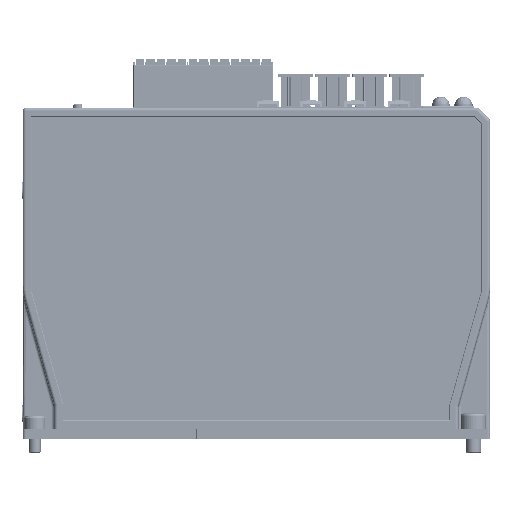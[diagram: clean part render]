
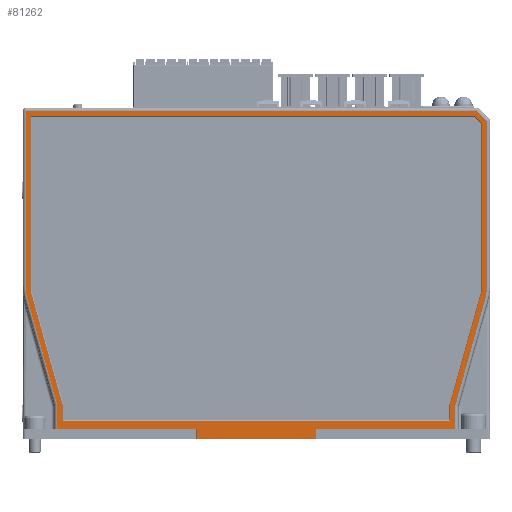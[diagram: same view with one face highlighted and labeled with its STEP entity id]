
A CAD part, left-side view. The second image highlights one B-rep face of the part: STEP entity #81262.
In plain terms, the highlighted planar face has unit normal (-1, 0, 0).
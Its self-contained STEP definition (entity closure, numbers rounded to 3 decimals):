
#32839=DIRECTION('',(0.,1.,0.));
#32840=VECTOR('',#32839,46.2);
#32841=CARTESIAN_POINT('',(-22.5,-66.,-106.4));
#32842=LINE('',#32841,#32840);
#32843=DIRECTION('',(0.,0.,1.));
#32844=VECTOR('',#32843,3.5);
#32845=CARTESIAN_POINT('',(-22.5,-19.8,-109.9));
#32846=LINE('',#32845,#32844);
#32847=DIRECTION('',(0.,-1.,0.));
#32848=VECTOR('',#32847,39.6);
#32849=CARTESIAN_POINT('',(-22.5,19.8,-109.9));
#32850=LINE('',#32849,#32848);
#32851=DIRECTION('',(0.,0.,-1.));
#32852=VECTOR('',#32851,3.5);
#32853=CARTESIAN_POINT('',(-22.5,19.8,-106.4));
#32854=LINE('',#32853,#32852);
#32855=DIRECTION('',(0.,1.,0.));
#32856=VECTOR('',#32855,46.2);
#32857=CARTESIAN_POINT('',(-22.5,19.8,-106.4));
#32858=LINE('',#32857,#32856);
#32859=DIRECTION('',(0.,0.,-1.));
#32860=VECTOR('',#32859,7.263);
#32861=CARTESIAN_POINT('',(-22.5,66.,-99.137));
#32862=LINE('',#32861,#32860);
#32863=CARTESIAN_POINT('',(-22.5,68.,-99.137));
#32864=DIRECTION('',(1.,0.,0.));
#32865=DIRECTION('',(0.,-0.963,0.27));
#32866=AXIS2_PLACEMENT_3D('',#32863,#32864,#32865);
#32868=DIRECTION('',(0.,-0.27,-0.963));
#32869=VECTOR('',#32868,36.264);
#32870=CARTESIAN_POINT('',(-22.5,75.852,-63.677));
#32871=LINE('',#32870,#32869);
#32872=CARTESIAN_POINT('',(-22.5,59.,-58.959));
#32873=DIRECTION('',(-1.,0.,0.));
#32874=DIRECTION('',(0.,1.,0.));
#32875=AXIS2_PLACEMENT_3D('',#32872,#32873,#32874);
#32877=DIRECTION('',(0.,0.,-1.));
#32878=VECTOR('',#32877,57.959);
#32879=CARTESIAN_POINT('',(-22.5,76.5,-1.));
#32880=LINE('',#32879,#32878);
#32881=DIRECTION('',(0.,-1.,0.));
#32882=VECTOR('',#32881,149.586);
#32883=CARTESIAN_POINT('',(-22.5,76.5,-1.));
#32884=LINE('',#32883,#32882);
#32885=DIRECTION('',(0.,0.707,0.707));
#32886=VECTOR('',#32885,4.828);
#32887=CARTESIAN_POINT('',(-22.5,-76.5,-4.414));
#32888=LINE('',#32887,#32886);
#32889=DIRECTION('',(0.,0.,-1.));
#32890=VECTOR('',#32889,54.545);
#32891=CARTESIAN_POINT('',(-22.5,-76.5,-4.414));
#32892=LINE('',#32891,#32890);
#32893=CARTESIAN_POINT('',(-22.5,-59.,-58.959));
#32894=DIRECTION('',(-1.,0.,0.));
#32895=DIRECTION('',(0.,-0.963,-0.27));
#32896=AXIS2_PLACEMENT_3D('',#32893,#32894,#32895);
#32898=DIRECTION('',(0.,-0.27,0.963));
#32899=VECTOR('',#32898,36.264);
#32900=CARTESIAN_POINT('',(-22.5,-66.074,-98.598));
#32901=LINE('',#32900,#32899);
#32902=CARTESIAN_POINT('',(-22.5,-68.,-99.137));
#32903=DIRECTION('',(1.,0.,0.));
#32904=DIRECTION('',(0.,1.,0.));
#32905=AXIS2_PLACEMENT_3D('',#32902,#32903,#32904);
#32907=DIRECTION('',(0.,0.,1.));
#32908=VECTOR('',#32907,7.263);
#32909=CARTESIAN_POINT('',(-22.5,-66.,-106.4));
#32910=LINE('',#32909,#32908);
#32911=DIRECTION('',(0.,0.27,0.963));
#32912=VECTOR('',#32911,38.942);
#32913=CARTESIAN_POINT('',(-22.5,64.25,-98.622));
#32914=LINE('',#32913,#32912);
#32915=DIRECTION('',(0.,0.,1.));
#32916=VECTOR('',#32915,5.128);
#32917=CARTESIAN_POINT('',(-22.5,64.25,-103.75));
#32918=LINE('',#32917,#32916);
#32919=DIRECTION('',(0.,1.,0.));
#32920=VECTOR('',#32919,128.5);
#32921=CARTESIAN_POINT('',(-22.5,-64.25,-103.75));
#32922=LINE('',#32921,#32920);
#32923=DIRECTION('',(0.,0.,-1.));
#32924=VECTOR('',#32923,5.128);
#32925=CARTESIAN_POINT('',(-22.5,-64.25,-98.622));
#32926=LINE('',#32925,#32924);
#32927=DIRECTION('',(0.,0.27,-0.963));
#32928=VECTOR('',#32927,38.942);
#32929=CARTESIAN_POINT('',(-22.5,-74.75,-61.122));
#32930=LINE('',#32929,#32928);
#32931=DIRECTION('',(0.,0.,-1.));
#32932=VECTOR('',#32931,55.983);
#32933=CARTESIAN_POINT('',(-22.5,-74.75,-5.139));
#32934=LINE('',#32933,#32932);
#32935=DIRECTION('',(0.,-0.707,-0.707));
#32936=VECTOR('',#32935,3.379);
#32937=CARTESIAN_POINT('',(-22.5,-72.361,-2.75));
#32938=LINE('',#32937,#32936);
#32939=DIRECTION('',(0.,-1.,0.));
#32940=VECTOR('',#32939,147.111);
#32941=CARTESIAN_POINT('',(-22.5,74.75,-2.75));
#32942=LINE('',#32941,#32940);
#32943=DIRECTION('',(0.,0.,1.));
#32944=VECTOR('',#32943,58.372);
#32945=CARTESIAN_POINT('',(-22.5,74.75,-61.122));
#32946=LINE('',#32945,#32944);
#38874=CARTESIAN_POINT('',(-22.5,-66.074,-98.598));
#38875=CARTESIAN_POINT('',(-22.5,-75.852,-63.677));
#38876=VERTEX_POINT('',#38874);
#38877=VERTEX_POINT('',#38875);
#38880=CARTESIAN_POINT('',(-22.5,-76.5,-4.414));
#38881=CARTESIAN_POINT('',(-22.5,-76.5,-58.959));
#38882=VERTEX_POINT('',#38880);
#38883=VERTEX_POINT('',#38881);
#38888=CARTESIAN_POINT('',(-22.5,76.5,-1.));
#38889=CARTESIAN_POINT('',(-22.5,-73.086,-1.));
#38890=VERTEX_POINT('',#38888);
#38891=VERTEX_POINT('',#38889);
#38900=CARTESIAN_POINT('',(-22.5,76.5,-58.959));
#38901=VERTEX_POINT('',#38900);
#38902=CARTESIAN_POINT('',(-22.5,-66.,-99.137));
#38903=VERTEX_POINT('',#38902);
#40325=CARTESIAN_POINT('',(-22.5,-66.,-106.4));
#40326=VERTEX_POINT('',#40325);
#40327=CARTESIAN_POINT('',(-22.5,-19.8,-106.4));
#40328=VERTEX_POINT('',#40327);
#40342=CARTESIAN_POINT('',(-22.5,19.8,-106.4));
#40343=CARTESIAN_POINT('',(-22.5,66.,-106.4));
#40344=VERTEX_POINT('',#40342);
#40345=VERTEX_POINT('',#40343);
#40350=CARTESIAN_POINT('',(-22.5,19.8,-109.9));
#40351=VERTEX_POINT('',#40350);
#40356=CARTESIAN_POINT('',(-22.5,-19.8,-109.9));
#40357=VERTEX_POINT('',#40356);
#41532=CARTESIAN_POINT('',(-22.5,75.852,-63.677));
#41533=CARTESIAN_POINT('',(-22.5,66.074,-98.598));
#41534=VERTEX_POINT('',#41532);
#41535=VERTEX_POINT('',#41533);
#41552=CARTESIAN_POINT('',(-22.5,66.,-99.137));
#41553=VERTEX_POINT('',#41552);
#44384=CARTESIAN_POINT('',(-22.5,64.25,-98.622));
#44385=CARTESIAN_POINT('',(-22.5,74.75,-61.122));
#44386=VERTEX_POINT('',#44384);
#44387=VERTEX_POINT('',#44385);
#44394=CARTESIAN_POINT('',(-22.5,64.25,-103.75));
#44395=VERTEX_POINT('',#44394);
#44398=CARTESIAN_POINT('',(-22.5,-64.25,-103.75));
#44399=VERTEX_POINT('',#44398);
#44400=CARTESIAN_POINT('',(-22.5,-64.25,-98.622));
#44401=VERTEX_POINT('',#44400);
#44404=CARTESIAN_POINT('',(-22.5,-74.75,-61.122));
#44405=VERTEX_POINT('',#44404);
#44408=CARTESIAN_POINT('',(-22.5,-74.75,-5.139));
#44409=VERTEX_POINT('',#44408);
#44412=CARTESIAN_POINT('',(-22.5,-72.361,-2.75));
#44413=VERTEX_POINT('',#44412);
#44416=CARTESIAN_POINT('',(-22.5,74.75,-2.75));
#44417=VERTEX_POINT('',#44416);
#81202=CARTESIAN_POINT('',(-22.5,77.5,0.));
#81203=DIRECTION('',(-1.,0.,0.));
#81204=DIRECTION('',(0.,-1.,0.));
#81205=AXIS2_PLACEMENT_3D('',#81202,#81203,#81204);
#81206=PLANE('',#81205);
#81207=ORIENTED_EDGE('',*,*,#81186,.T.);
#81209=ORIENTED_EDGE('',*,*,#81208,.F.);
#81211=ORIENTED_EDGE('',*,*,#81210,.F.);
#81213=ORIENTED_EDGE('',*,*,#81212,.F.);
#81215=ORIENTED_EDGE('',*,*,#81214,.T.);
#81217=ORIENTED_EDGE('',*,*,#81216,.F.);
#81219=ORIENTED_EDGE('',*,*,#81218,.F.);
#81221=ORIENTED_EDGE('',*,*,#81220,.F.);
#81223=ORIENTED_EDGE('',*,*,#81222,.F.);
#81225=ORIENTED_EDGE('',*,*,#81224,.F.);
#81227=ORIENTED_EDGE('',*,*,#81226,.T.);
#81229=ORIENTED_EDGE('',*,*,#81228,.F.);
#81231=ORIENTED_EDGE('',*,*,#81230,.T.);
#81233=ORIENTED_EDGE('',*,*,#81232,.F.);
#81235=ORIENTED_EDGE('',*,*,#81234,.F.);
#81237=ORIENTED_EDGE('',*,*,#81236,.F.);
#81239=ORIENTED_EDGE('',*,*,#81238,.F.);
#81240=EDGE_LOOP('',(#81207,#81209,#81211,#81213,#81215,#81217,#81219,#81221,
#81223,#81225,#81227,#81229,#81231,#81233,#81235,#81237,#81239));
#81241=FACE_OUTER_BOUND('',#81240,.F.);
#81243=ORIENTED_EDGE('',*,*,#81242,.F.);
#81245=ORIENTED_EDGE('',*,*,#81244,.F.);
#81247=ORIENTED_EDGE('',*,*,#81246,.F.);
#81249=ORIENTED_EDGE('',*,*,#81248,.F.);
#81251=ORIENTED_EDGE('',*,*,#81250,.F.);
#81253=ORIENTED_EDGE('',*,*,#81252,.F.);
#81255=ORIENTED_EDGE('',*,*,#81254,.F.);
#81257=ORIENTED_EDGE('',*,*,#81256,.F.);
#81259=ORIENTED_EDGE('',*,*,#81258,.F.);
#81260=EDGE_LOOP('',(#81243,#81245,#81247,#81249,#81251,#81253,#81255,#81257,
#81259));
#81261=FACE_BOUND('',#81260,.F.);
#81262=ADVANCED_FACE('',(#81241,#81261),#81206,.T.);
#32867=CIRCLE('',#32866,2.);
#32876=CIRCLE('',#32875,17.5);
#32897=CIRCLE('',#32896,17.5);
#32906=CIRCLE('',#32905,2.);
#81186=EDGE_CURVE('',#40326,#40328,#32842,.T.);
#81208=EDGE_CURVE('',#40357,#40328,#32846,.T.);
#81210=EDGE_CURVE('',#40351,#40357,#32850,.T.);
#81212=EDGE_CURVE('',#40344,#40351,#32854,.T.);
#81214=EDGE_CURVE('',#40344,#40345,#32858,.T.);
#81216=EDGE_CURVE('',#41553,#40345,#32862,.T.);
#81218=EDGE_CURVE('',#41535,#41553,#32867,.T.);
#81220=EDGE_CURVE('',#41534,#41535,#32871,.T.);
#81222=EDGE_CURVE('',#38901,#41534,#32876,.T.);
#81224=EDGE_CURVE('',#38890,#38901,#32880,.T.);
#81226=EDGE_CURVE('',#38890,#38891,#32884,.T.);
#81228=EDGE_CURVE('',#38882,#38891,#32888,.T.);
#81230=EDGE_CURVE('',#38882,#38883,#32892,.T.);
#81232=EDGE_CURVE('',#38877,#38883,#32897,.T.);
#81234=EDGE_CURVE('',#38876,#38877,#32901,.T.);
#81236=EDGE_CURVE('',#38903,#38876,#32906,.T.);
#81238=EDGE_CURVE('',#40326,#38903,#32910,.T.);
#81242=EDGE_CURVE('',#44386,#44387,#32914,.T.);
#81244=EDGE_CURVE('',#44395,#44386,#32918,.T.);
#81246=EDGE_CURVE('',#44399,#44395,#32922,.T.);
#81248=EDGE_CURVE('',#44401,#44399,#32926,.T.);
#81250=EDGE_CURVE('',#44405,#44401,#32930,.T.);
#81252=EDGE_CURVE('',#44409,#44405,#32934,.T.);
#81254=EDGE_CURVE('',#44413,#44409,#32938,.T.);
#81256=EDGE_CURVE('',#44417,#44413,#32942,.T.);
#81258=EDGE_CURVE('',#44387,#44417,#32946,.T.);
